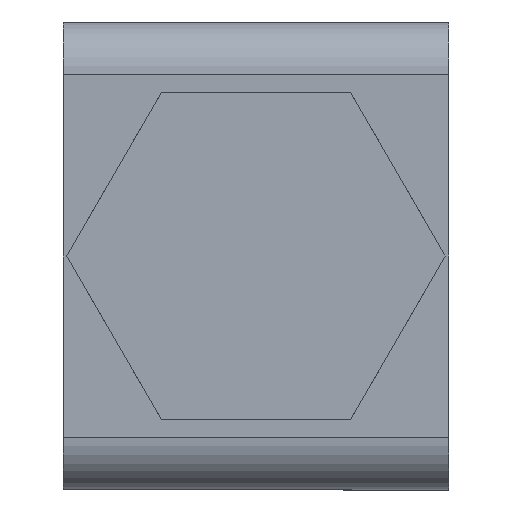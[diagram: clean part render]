
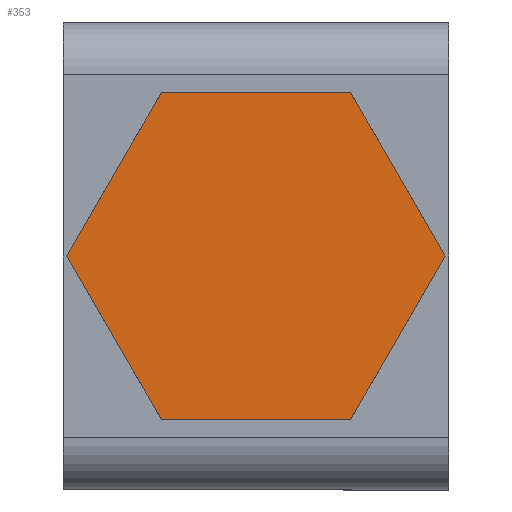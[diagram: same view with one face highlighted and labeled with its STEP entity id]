
A CAD part, front view. The second image highlights one B-rep face of the part: STEP entity #353.
In plain terms, the highlighted planar face has unit normal (0, -1, 0) as drawn and (0, 1, 0) by its records, which use the part's own axes.
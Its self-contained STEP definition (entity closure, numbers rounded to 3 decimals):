
#353 = ADVANCED_FACE ( 'NONE', ( #1971 ), #1934, .T. ) ;
#408 = ORIENTED_EDGE ( 'NONE', *, *, #2045, .T. ) ;
#447 = ORIENTED_EDGE ( 'NONE', *, *, #2030, .T. ) ;
#451 = ORIENTED_EDGE ( 'NONE', *, *, #2046, .T. ) ;
#454 = ORIENTED_EDGE ( 'NONE', *, *, #2049, .T. ) ;
#483 = ORIENTED_EDGE ( 'NONE', *, *, #2051, .T. ) ;
#519 = ORIENTED_EDGE ( 'NONE', *, *, #2042, .T. ) ;
#602 = AXIS2_PLACEMENT_3D ( 'NONE', #1907, #1909, #1955 ) ;
#663 = EDGE_LOOP ( 'NONE', ( #519, #454, #483, #447, #451, #408 ) ) ;
#667 = VERTEX_POINT ( 'NONE', #1780 ) ;
#726 = VERTEX_POINT ( 'NONE', #1805 ) ;
#732 = VERTEX_POINT ( 'NONE', #1810 ) ;
#857 = VERTEX_POINT ( 'NONE', #1842 ) ;
#877 = VERTEX_POINT ( 'NONE', #1840 ) ;
#892 = VERTEX_POINT ( 'NONE', #1847 ) ;
#1108 = VECTOR ( 'NONE', #1282, 1000. ) ;
#1272 = LINE ( 'NONE', #1281, #1108 ) ;
#1281 = CARTESIAN_POINT ( 'NONE',  ( 4.907, 6.4, 8.5 ) ) ;
#1282 = DIRECTION ( 'NONE',  ( 0.5, 0., -0.866 ) ) ;
#1317 = LINE ( 'NONE', #1318, #2161 ) ;
#1318 = CARTESIAN_POINT ( 'NONE',  ( -4.907, 6.4, -8.5 ) ) ;
#1319 = DIRECTION ( 'NONE',  ( -0.5, 0., 0.866 ) ) ;
#1326 = LINE ( 'NONE', #1327, #2179 ) ;
#1327 = CARTESIAN_POINT ( 'NONE',  ( 4.907, 6.4, -8.5 ) ) ;
#1328 = DIRECTION ( 'NONE',  ( -1., 0., 0. ) ) ;
#1329 = LINE ( 'NONE', #1330, #2171 ) ;
#1330 = CARTESIAN_POINT ( 'NONE',  ( 9.815, 6.4, 0. ) ) ;
#1331 = DIRECTION ( 'NONE',  ( -0.5, 0., -0.866 ) ) ;
#1338 = LINE ( 'NONE', #1339, #2183 ) ;
#1339 = CARTESIAN_POINT ( 'NONE',  ( -9.815, 6.4, 0. ) ) ;
#1340 = DIRECTION ( 'NONE',  ( 0.5, 0., 0.866 ) ) ;
#1344 = LINE ( 'NONE', #1345, #2170 ) ;
#1345 = CARTESIAN_POINT ( 'NONE',  ( -4.907, 6.4, 8.5 ) ) ;
#1346 = DIRECTION ( 'NONE',  ( 1., 0., 0. ) ) ;
#1780 = CARTESIAN_POINT ( 'NONE',  ( 4.907, 6.4, 8.5 ) ) ;
#1805 = CARTESIAN_POINT ( 'NONE',  ( -9.815, 6.4, 0. ) ) ;
#1810 = CARTESIAN_POINT ( 'NONE',  ( 4.907, 6.4, -8.5 ) ) ;
#1840 = CARTESIAN_POINT ( 'NONE',  ( -4.907, 6.4, -8.5 ) ) ;
#1842 = CARTESIAN_POINT ( 'NONE',  ( 9.815, 6.4, 0. ) ) ;
#1847 = CARTESIAN_POINT ( 'NONE',  ( -4.907, 6.4, 8.5 ) ) ;
#1907 = CARTESIAN_POINT ( 'NONE',  ( -9.815, 6.4, 0. ) ) ;
#1909 = DIRECTION ( 'NONE',  ( 0., 1., 0. ) ) ;
#1934 = PLANE ( 'NONE',  #602 ) ;
#1955 = DIRECTION ( 'NONE',  ( 0., 0., 1. ) ) ;
#1971 = FACE_OUTER_BOUND ( 'NONE', #663, .T. ) ;
#2030 = EDGE_CURVE ( 'NONE', #667, #857, #1272, .T. ) ;
#2042 = EDGE_CURVE ( 'NONE', #877, #726, #1317, .T. ) ;
#2045 = EDGE_CURVE ( 'NONE', #732, #877, #1326, .T. ) ;
#2046 = EDGE_CURVE ( 'NONE', #857, #732, #1329, .T. ) ;
#2049 = EDGE_CURVE ( 'NONE', #726, #892, #1338, .T. ) ;
#2051 = EDGE_CURVE ( 'NONE', #892, #667, #1344, .T. ) ;
#2161 = VECTOR ( 'NONE', #1319, 1000. ) ;
#2170 = VECTOR ( 'NONE', #1346, 1000. ) ;
#2171 = VECTOR ( 'NONE', #1331, 1000. ) ;
#2179 = VECTOR ( 'NONE', #1328, 1000. ) ;
#2183 = VECTOR ( 'NONE', #1340, 1000. ) ;
